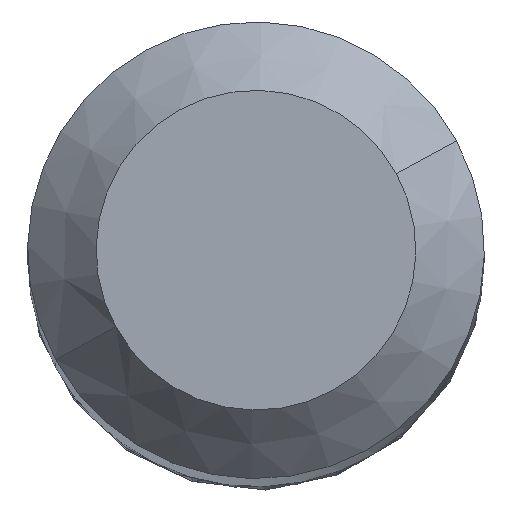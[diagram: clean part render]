
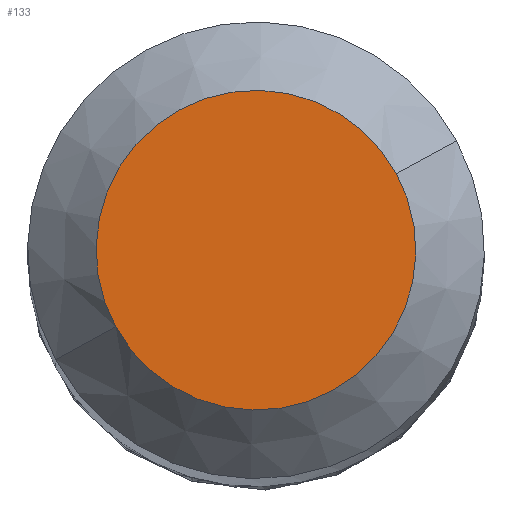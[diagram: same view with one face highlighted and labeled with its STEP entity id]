
A CAD part, top view. The second image highlights one B-rep face of the part: STEP entity #133.
In plain terms, the highlighted planar face has unit normal (0, 0, 1).
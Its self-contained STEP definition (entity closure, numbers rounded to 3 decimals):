
#78=AXIS2_PLACEMENT_3D('Circle Axis2P3D',#76,#77,$) ;
#122=AXIS2_PLACEMENT_3D('Plane Axis2P3D',#119,#120,#121) ;
#126=AXIS2_PLACEMENT_3D('Circle Axis2P3D',#124,#125,$) ;
#76=CARTESIAN_POINT('Axis2P3D Location',(0.,0.,32.)) ;
#80=CARTESIAN_POINT('Vertex',(0.614,0.336,32.)) ;
#82=CARTESIAN_POINT('Vertex',(-0.614,-0.336,32.)) ;
#119=CARTESIAN_POINT('Axis2P3D Location',(0.7,0.,32.)) ;
#124=CARTESIAN_POINT('Axis2P3D Location',(0.,0.,32.)) ;
#77=DIRECTION('Axis2P3D Direction',(0.,0.,-1.)) ;
#120=DIRECTION('Axis2P3D Direction',(0.,0.,1.)) ;
#121=DIRECTION('Axis2P3D XDirection',(1.,0.,0.)) ;
#125=DIRECTION('Axis2P3D Direction',(0.,0.,1.)) ;
#130=ORIENTED_EDGE('',*,*,#84,.T.) ;
#131=ORIENTED_EDGE('',*,*,#128,.T.) ;
#133=ADVANCED_FACE('NOCUT',(#132),#123,.T.) ;
#79=CIRCLE('generated circle',#78,0.7) ;
#127=CIRCLE('generated circle',#126,0.7) ;
#84=EDGE_CURVE('',#81,#83,#79,.F.) ;
#128=EDGE_CURVE('',#83,#81,#127,.T.) ;
#129=EDGE_LOOP('',(#130,#131)) ;
#132=FACE_OUTER_BOUND('',#129,.T.) ;
#123=PLANE('',#122) ;
#81=VERTEX_POINT('',#80) ;
#83=VERTEX_POINT('',#82) ;
